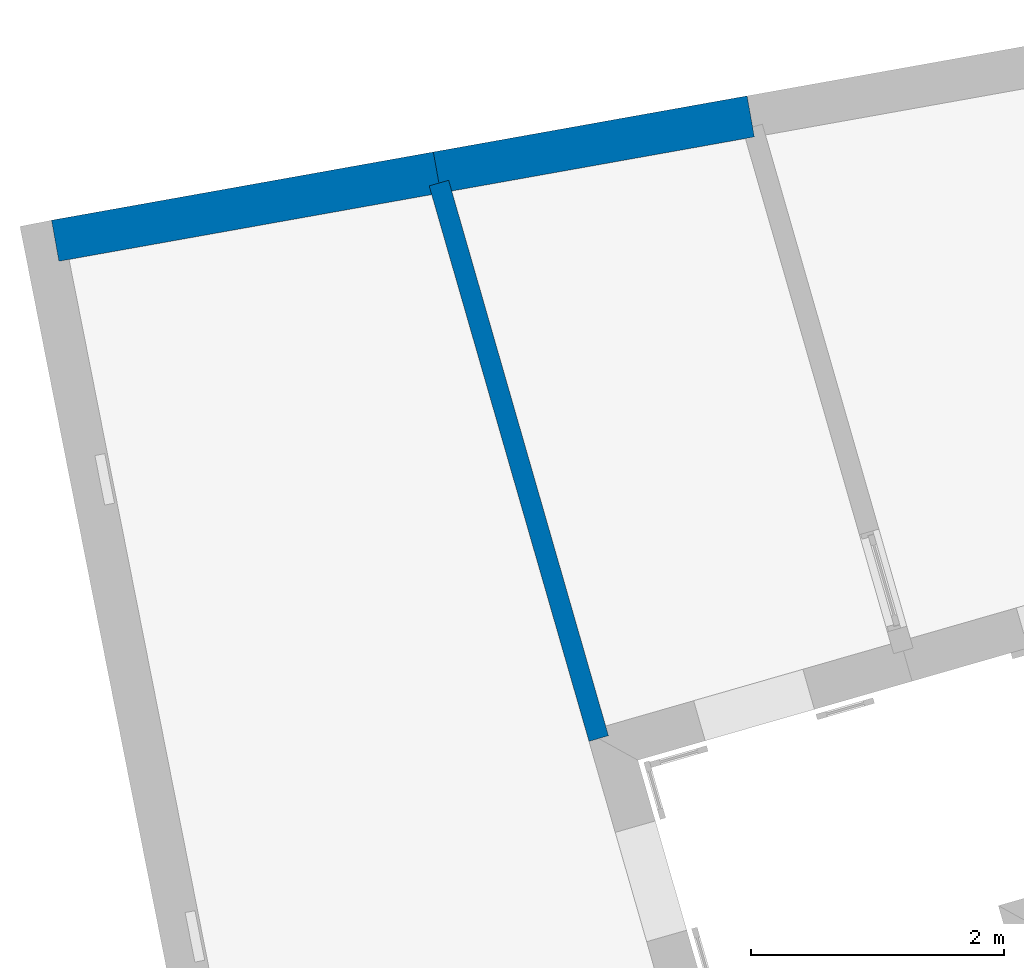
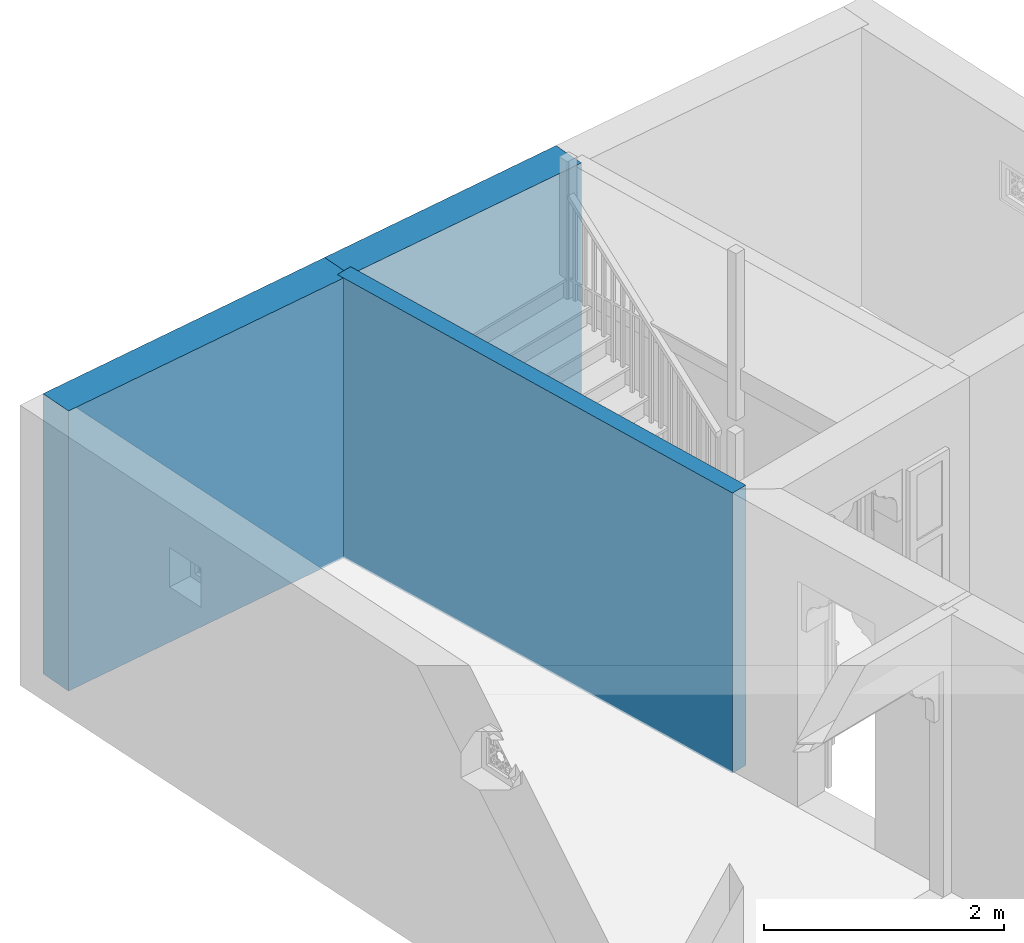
# One storey, part 10 of 16: 3 walls.
"""IFC4 building model written with IfcOpenShell, lengths in metres."""

import ifcopenshell
import ifcopenshell.guid

model = None  # the IFC model being written
_history = None  # IfcOwnerHistory: only IFC2X3 demands one
_inside = {}  # id of a spatial element -> (the spatial element, [elements in it])
_under = {}  # id of a project, library or spatial element -> (it, [spatial elements below it])
_declared = {}  # id of a project -> (the project, [libraries it declares])
_typed = {}  # id of a type object -> (the type object, [elements of that type])
_made_of = {}  # id of a material, layer set ... -> (it, [elements and type objects made of it])


def new_model(schema):
    """Start an empty IFC model of exactly this schema.

    Asked for "IFC4X3", IfcOpenShell would pick the latest addendum, in which some entities
    have other attributes; the version numbers below select the first issue.
    IFC2X3 requires an IfcOwnerHistory on every rooted entity: one is made here for all.
    """
    global model, _history
    if schema == "IFC4X3":
        model = ifcopenshell.file(schema_version=(4, 3, 0, 0))
    else:
        model = ifcopenshell.file(schema=schema)
    _inside.clear()
    _under.clear()
    _declared.clear()
    _typed.clear()
    _made_of.clear()
    _history = None
    if model.schema == "IFC2X3":
        org = make("IfcOrganization", Name="unknown")
        user = make(
            "IfcPersonAndOrganization",
            ThePerson=make("IfcPerson", FamilyName="unknown"),
            TheOrganization=org,
        )
        app = make(
            "IfcApplication",
            ApplicationDeveloper=org,
            Version="unknown",
            ApplicationFullName="unknown",
            ApplicationIdentifier="unknown",
        )
        _history = make(
            "IfcOwnerHistory",
            OwningUser=user,
            OwningApplication=app,
            ChangeAction="ADDED",
            CreationDate=0,
        )
    return model


def make(cls, **values):
    """One entity of the class cls with the attributes given. An attribute that is None is left unset."""
    return model.create_entity(
        cls, **{name: value for name, value in values.items() if value is not None}
    )


def rooted(cls, **values):
    """An entity with a GlobalId (a new one), such as an element, a storey or a relation."""
    return make(cls, GlobalId=ifcopenshell.guid.new(), OwnerHistory=_history, **values)


def si_unit(unit_type, name, prefix=None):
    """IfcSIUnit, for example si_unit("LENGTHUNIT", "METRE", prefix="MILLI")."""
    return make("IfcSIUnit", UnitType=unit_type, Prefix=prefix, Name=name)


def assignment(units):
    """IfcUnitAssignment: the units of a project."""
    return None if units is None else make("IfcUnitAssignment", Units=units)


def point(xyz):
    """IfcCartesianPoint."""
    return None if xyz is None else make("IfcCartesianPoint", Coordinates=xyz)


def direction(xyz):
    """IfcDirection."""
    return None if xyz is None else make("IfcDirection", DirectionRatios=xyz)


def frame(location, z_axis=None, x_axis=None):
    """IfcAxis2Placement3D, a coordinate frame: its origin and axes. An axis left out is left unset."""
    return make(
        "IfcAxis2Placement3D",
        Location=point(location),
        Axis=direction(z_axis),
        RefDirection=direction(x_axis),
    )


def origin_with_axes():
    """The frame at (0, 0, 0) with the z axis (0, 0, 1) and the x axis (1, 0, 0) written out."""
    return frame((0.0, 0.0, 0.0), z_axis=(0.0, 0.0, 1.0), x_axis=(1.0, 0.0, 0.0))


def place(relative_to, where):
    """IfcLocalPlacement: puts the frame where relative to a parent placement (None: the world)."""
    return make(
        "IfcLocalPlacement", PlacementRelTo=relative_to, RelativePlacement=where
    )


def context(
    kind, dimensions, precision=None, world=None, true_north=None, identifier=None
):
    """IfcGeometricRepresentationContext, for example the 3D "Model" context."""
    return make(
        "IfcGeometricRepresentationContext",
        ContextIdentifier=identifier,
        ContextType=kind,
        CoordinateSpaceDimension=dimensions,
        Precision=precision,
        WorldCoordinateSystem=world,
        TrueNorth=true_north,
    )


def subcontext(parent, identifier, kind, view, scale=None):
    """IfcGeometricRepresentationSubContext, for example "Body" below "Model"."""
    return make(
        "IfcGeometricRepresentationSubContext",
        ContextIdentifier=identifier,
        ContextType=kind,
        ParentContext=parent,
        TargetScale=scale,
        TargetView=view,
    )


def project(units=None, contexts=None):
    """IfcProject with its units and contexts."""
    return rooted(
        "IfcProject",
        Name="project",
        RepresentationContexts=contexts,
        UnitsInContext=assignment(units),
    )


def spatial(cls, under=None, at=None, **own):
    """A site, building, storey or space (cls), placed at a placement, below another one or the project."""
    s = rooted(cls, ObjectPlacement=at, **own)
    if under is not None:
        _under.setdefault(under.id(), (under, []))[1].append(s)
    return s


def polyline(points):
    """IfcPolyline through the points."""
    return make("IfcPolyline", Points=[point(p) for p in points])


def outline(outer, holes=None, kind="AREA"):
    """IfcArbitraryClosedProfileDef: a profile drawn as a closed curve; with holes, ...WithVoids."""
    if holes is None:
        return make("IfcArbitraryClosedProfileDef", ProfileType=kind, OuterCurve=outer)
    return make(
        "IfcArbitraryProfileDefWithVoids",
        ProfileType=kind,
        OuterCurve=outer,
        InnerCurves=holes,
    )


def extrude(swept, where, along, depth):
    """IfcExtrudedAreaSolid: the profile swept, set in the frame where, extruded along a direction by depth."""
    return make(
        "IfcExtrudedAreaSolid",
        SweptArea=swept,
        Position=where,
        ExtrudedDirection=direction(along),
        Depth=depth,
    )


def shape(context_of_items, identifier, shape_type, items):
    """IfcShapeRepresentation: the items that make up one representation, for example the "Body"."""
    return make(
        "IfcShapeRepresentation",
        ContextOfItems=context_of_items,
        RepresentationIdentifier=identifier,
        RepresentationType=shape_type,
        Items=items,
    )


def material(Name=None, Category=None):
    """IfcMaterial."""
    return make("IfcMaterial", Name=Name, Category=Category)


def layer(
    of_material, thickness, ventilated=None, Name=None, Category=None, Priority=None
):
    """IfcMaterialLayer: one layer of a wall or slab, of a material (None: an air gap)."""
    return make(
        "IfcMaterialLayer",
        Material=of_material,
        LayerThickness=thickness,
        IsVentilated=ventilated,
        Name=Name,
        Category=Category,
        Priority=Priority,
    )


def layer_set(layers, Name=None):
    """IfcMaterialLayerSet."""
    return make("IfcMaterialLayerSet", MaterialLayers=layers, LayerSetName=Name)


def layer_usage(for_layer_set, set_direction, sense, offset, extent=None):
    """IfcMaterialLayerSetUsage: how a layer set lies in its element."""
    return make(
        "IfcMaterialLayerSetUsage",
        ForLayerSet=for_layer_set,
        LayerSetDirection=set_direction,
        DirectionSense=sense,
        OffsetFromReferenceLine=offset,
        ReferenceExtent=extent,
    )


def made_of(thing, what):
    """Note that an element or type object is made of a material, layer set ...; save() writes the relation."""
    if what is not None:
        _made_of.setdefault(what.id(), (what, []))[1].append(thing)
    return thing


def type_object(cls, material=None, **own):
    """A type object (cls), such as IfcWallType, which elements share."""
    return made_of(rooted(cls, **own), material)


def element(
    cls,
    number,
    at=None,
    inside=None,
    cuts=None,
    type_object=None,
    material=None,
    context=None,
    identifier="Body",
    shape_type=None,
    held_by="IfcProductDefinitionShape",
    body=None,
    shapes=None,
    **own,
):
    """One element of the class cls, such as IfcWall. Its Tag is "e" and its number.

    at: its placement. inside: the storey or other place that contains it. cuts: it is an
    opening in that element (IfcRelVoidsElement). A single representation is given by context,
    identifier, shape_type and body (its items); several are given by shapes. held_by: the class
    of the entity that holds the representations. save() writes the other relations.
    """
    e = rooted(cls, Tag="e%d" % number, ObjectPlacement=at, **own)
    if body is not None:
        shapes = [shape(context, identifier, shape_type, body)]
    if shapes is not None:
        e.Representation = make(held_by, Representations=shapes)
    if inside is not None:
        _inside.setdefault(inside.id(), (inside, []))[1].append(e)
    if cuts is not None:
        rooted(
            "IfcRelVoidsElement", RelatingBuildingElement=cuts, RelatedOpeningElement=e
        )
    if type_object is not None:
        _typed.setdefault(type_object.id(), (type_object, []))[1].append(e)
    return made_of(e, material)


def aggregate(whole, parts):
    """IfcRelAggregates: a whole, such as a stair, and the parts it consists of."""
    return rooted("IfcRelAggregates", RelatingObject=whole, RelatedObjects=parts)


def save(model, path):
    """Write the relations noted so far, then the file.

    IfcRelAggregates (storeys below a building ...), IfcRelContainedInSpatialStructure (elements
    in a storey), IfcRelDefinesByType, IfcRelAssociatesMaterial and IfcRelDeclares: one each for
    every whole, place, type object, material and project.
    """
    for whole, parts in _under.values():
        aggregate(whole, parts)
    for where, things in _inside.values():
        rooted(
            "IfcRelContainedInSpatialStructure",
            RelatedElements=things,
            RelatingStructure=where,
        )
    for kind, things in _typed.values():
        rooted("IfcRelDefinesByType", RelatedObjects=things, RelatingType=kind)
    for what, things in _made_of.values():
        rooted("IfcRelAssociatesMaterial", RelatedObjects=things, RelatingMaterial=what)
    for by, libraries in _declared.values():
        rooted("IfcRelDeclares", RelatingContext=by, RelatedDefinitions=libraries)
    model.write(path)


model = new_model("IFC4")

# Units and contexts
model_context = context("Model", 3, world=origin_with_axes())
body_context = subcontext(model_context, "Body", "Model", "MODEL_VIEW")
ifc_project = project(units=[si_unit("PLANEANGLEUNIT", "RADIAN"), si_unit("MASSUNIT", "GRAM", prefix="KILO"), si_unit("FORCEUNIT", "NEWTON", prefix="KILO"), si_unit("LENGTHUNIT", "METRE"), si_unit("AREAUNIT", "SQUARE_METRE"), si_unit("VOLUMEUNIT", "CUBIC_METRE")], contexts=[model_context, model_context])

# Site, building, storey
site_placement = place(None, origin_with_axes())
site = spatial("IfcSite", under=ifc_project, at=site_placement, Name="Site plot-9", CompositionType="ELEMENT")
building_placement = place(None, origin_with_axes())
building = spatial("IfcBuilding", under=site, at=building_placement, Name="Building plot-9", CompositionType="ELEMENT")
storey_placement = place(None, origin_with_axes())
storey = spatial("IfcBuildingStorey", under=building, at=storey_placement, Name="plot-9 0", CompositionType="ELEMENT", Elevation=0.0)

# Walls
ifc_material_1 = material(Name="Masonry")
ifc_layer_1 = layer(ifc_material_1, 0.33, ventilated=False)
ifc_layer_set_1 = layer_set([ifc_layer_1], Name="party_0.08_0.25")
ifc_layer_usage_1 = layer_usage(ifc_layer_set_1, "AXIS2", "POSITIVE", -0.25)
wall_type_1 = type_object("IfcWallType", Name="party_0.08_0.25", PredefinedType="SOLIDWALL", material=ifc_layer_set_1)
wall_1_placement = place(storey_placement, frame((-17.5470391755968, 8.52317158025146, 0.0), z_axis=(0.0, 0.0, 1.0), x_axis=(-0.984393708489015, -0.175980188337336, 0.0)))
element("IfcWall", 1, at=wall_1_placement, inside=storey, type_object=wall_type_1, material=ifc_layer_usage_1, Name="party", context=body_context, shape_type="SweptSolid", body=[
    extrude(outline(polyline([(2.69521332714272e-16, 0.0800000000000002), (-4.28781124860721e-16, -0.25), (2.52207926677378, -0.25), (2.52207926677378, 0.0800000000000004), (2.69521332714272e-16, 0.0800000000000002)])), origin_with_axes(), (0.0, 0.0, 1.0), 2.85),
])
wall_2_placement = place(storey_placement, frame((-20.0297581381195, 8.07933559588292, 0.0), z_axis=(0.0, 0.0, 1.0), x_axis=(-0.984393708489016, -0.17598018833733, 0.0)))
element("IfcWall", 2, at=wall_2_placement, inside=storey, type_object=wall_type_1, material=ifc_layer_usage_1, Name="party", context=body_context, shape_type="SweptSolid", body=[
    extrude(outline(polyline([(-1.56804308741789e-16, 0.0800000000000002), (1.01450880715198e-15, -0.25), (3.06926455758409, -0.249999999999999), (3.06926455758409, 0.0800000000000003), (-1.56804308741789e-16, 0.0800000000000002)])), origin_with_axes(), (0.0, 0.0, 1.0), 2.85),
])
ifc_material_2 = material(Name="Masonry")
ifc_layer_2 = layer(ifc_material_2, 0.16, ventilated=False)
ifc_layer_set_2 = layer_set([ifc_layer_2], Name="interior_0.08_0.08")
ifc_layer_usage_2 = layer_usage(ifc_layer_set_2, "AXIS2", "POSITIVE", -0.08)
wall_type_2 = type_object("IfcWallType", Name="interior_0.08_0.08", PredefinedType="SOLIDWALL", material=ifc_layer_set_2)
wall_3_placement = place(storey_placement, frame((-18.7649181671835, 3.68360629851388, 0.0), z_axis=(0.0, 0.0, 1.0), x_axis=(-0.276523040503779, 0.961007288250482, 0.0)))
element("IfcWall", 3, at=wall_3_placement, inside=storey, type_object=wall_type_2, material=ifc_layer_usage_2, Name="interior", context=body_context, shape_type="SweptSolid", body=[
    extrude(outline(polyline([(-1.28649811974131e-17, 0.08), (2.26621555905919e-17, -0.08), (4.57408528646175, -0.0800000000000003), (4.57408528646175, 0.0799999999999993), (-1.28649811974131e-17, 0.08)])), origin_with_axes(), (0.0, 0.0, 1.0), 2.85),
])

save(model, "model.ifc")
